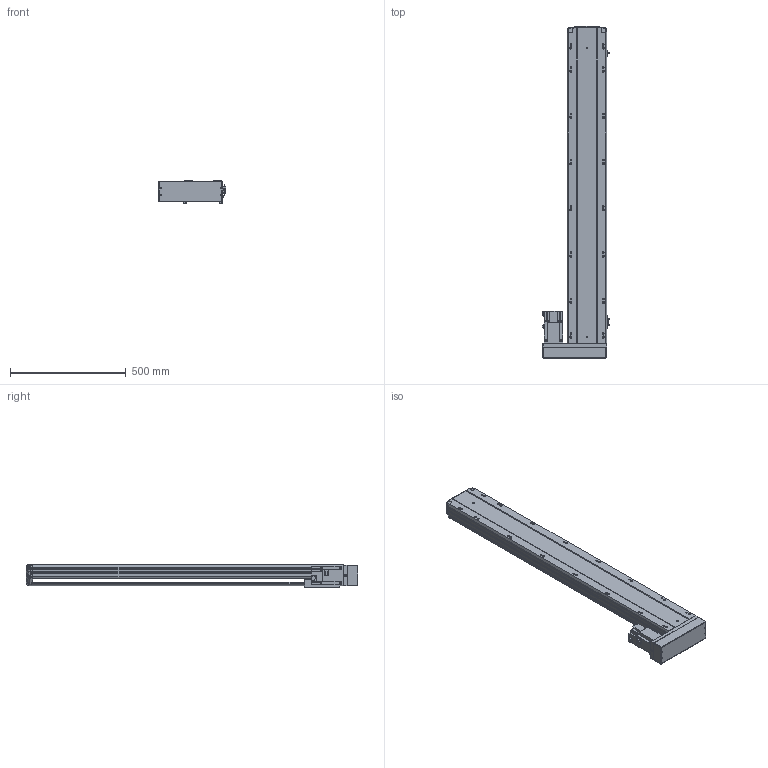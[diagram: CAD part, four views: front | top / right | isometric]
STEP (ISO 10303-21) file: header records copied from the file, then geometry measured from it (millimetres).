
FILE_DESCRIPTION (( 'STEP AP203' ), '1' );
FILE_NAME ('23.STEP', '2020-11-21T00:40:30', ( '' ), ( '' ), 'SwSTEP 2.0', 'SolidWorks 2016', '' );
FILE_SCHEMA (( 'CONFIG_CONTROL_DESIGN' ));
Length unit declared in the file: millimetre
Products named in the file (7): BTH17-BL-BM-BR-菁釱; 23; BTH17-BL-HZ-T75_賑釱; BTH17-BL-04-T75; BTH17-BL-01-T75; BTH17-BL-T75; BTH17-BL-02-T75
Assembly tree (8 placements, depth 2):
  23
    BTH17-BL-BM-BR-菁釱
    BTH17-BL-01-T75
    BTH17-BL-02-T75
    BTH17-BL-04-T75  x3
    BTH17-BL-HZ-T75_賑釱
    BTH17-BL-T75
Bounding box: 293 x 1435.53 x 97 mm (x, y, z)
Volume: 10220209.6 mm3; surface area: 1740009.3 mm2
Topology: 14 solids, 14 shells, 1669 faces, 4501 edges, 2867 vertices
Faces by surface type: plane 861, cylinder 479, bspline 203, cone 103, torus 23
Entity records: 57411 total; most frequent: CARTESIAN_POINT 21587, ORIENTED_EDGE 7784, DIRECTION 6562, EDGE_CURVE 3892, VERTEX_POINT 2507, VECTOR 2190, LINE 2190, AXIS2_PLACEMENT_3D 2186
